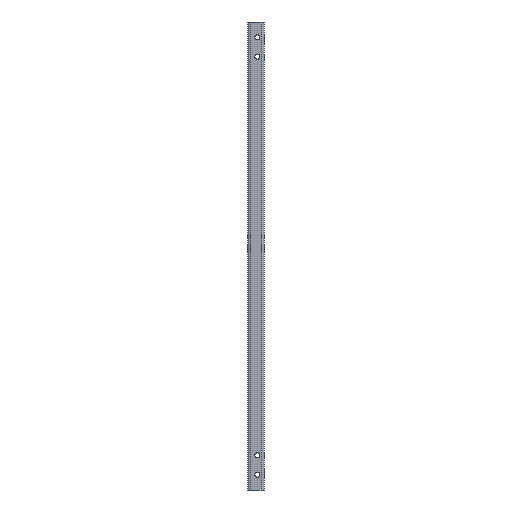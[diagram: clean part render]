
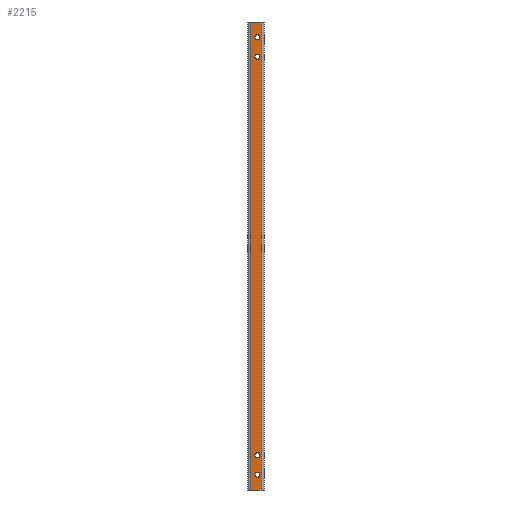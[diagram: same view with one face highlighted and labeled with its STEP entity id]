
A CAD part, front view. The second image highlights one B-rep face of the part: STEP entity #2215.
In plain terms, the highlighted planar face has unit normal (0, -1, 0).
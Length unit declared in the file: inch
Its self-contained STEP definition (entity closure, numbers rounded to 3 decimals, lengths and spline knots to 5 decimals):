
#98 = DIRECTION ( 'NONE',  ( 0., 0., -1. ) ) ;
#99 = DIRECTION ( 'NONE',  ( 0., 1., 0. ) ) ;
#104 = DIRECTION ( 'NONE',  ( 0., 0., -1. ) ) ;
#105 = DIRECTION ( 'NONE',  ( 0., 1., 0. ) ) ;
#106 = CARTESIAN_POINT ( 'NONE',  ( -0.412, -0.8125, -13.50475 ) ) ;
#109 = CARTESIAN_POINT ( 'NONE',  ( -0.412, -0.8125, -12.30275 ) ) ;
#428 = FACE_BOUND ( 'NONE', #1707, .T. ) ;
#430 = FACE_BOUND ( 'NONE', #1711, .T. ) ;
#432 = FACE_BOUND ( 'NONE', #1661, .T. ) ;
#438 = FACE_OUTER_BOUND ( 'NONE', #1658, .T. ) ;
#439 = FACE_BOUND ( 'NONE', #1588, .T. ) ;
#595 = VECTOR ( 'NONE', #2120, 39.37008 ) ;
#596 = LINE ( 'NONE', #2121, #595 ) ;
#597 = VECTOR ( 'NONE', #2122, 39.37008 ) ;
#598 = LINE ( 'NONE', #2125, #597 ) ;
#603 = CIRCLE ( 'NONE', #1319, 0.156 ) ;
#605 = CIRCLE ( 'NONE', #1322, 0.156 ) ;
#606 = VECTOR ( 'NONE', #2130, 39.37008 ) ;
#607 = LINE ( 'NONE', #2133, #606 ) ;
#608 = VECTOR ( 'NONE', #2144, 39.37008 ) ;
#610 = LINE ( 'NONE', #2043, #608 ) ;
#643 = CIRCLE ( 'NONE', #1301, 0.156 ) ;
#655 = CIRCLE ( 'NONE', #1305, 0.156 ) ;
#667 = CIRCLE ( 'NONE', #1292, 0.156 ) ;
#712 = CIRCLE ( 'NONE', #1293, 0.156 ) ;
#766 = CIRCLE ( 'NONE', #1276, 0.156 ) ;
#769 = CIRCLE ( 'NONE', #1275, 0.156 ) ;
#976 = CARTESIAN_POINT ( 'NONE',  ( -0.189, -0.8125, -14.45275 ) ) ;
#982 = CARTESIAN_POINT ( 'NONE',  ( -0.412, -0.8125, 13.66075 ) ) ;
#1036 = CARTESIAN_POINT ( 'NONE',  ( -0.412, -0.8125, -13.66075 ) ) ;
#1038 = CARTESIAN_POINT ( 'NONE',  ( -0.412, -0.8125, 13.34875 ) ) ;
#1073 = CARTESIAN_POINT ( 'NONE',  ( -0.859, -0.8125, -14.45275 ) ) ;
#1088 = CARTESIAN_POINT ( 'NONE',  ( -0.859, -0.8125, 14.45275 ) ) ;
#1090 = CARTESIAN_POINT ( 'NONE',  ( -0.412, -0.8125, -13.34875 ) ) ;
#1092 = CARTESIAN_POINT ( 'NONE',  ( -0.412, -0.8125, -12.14675 ) ) ;
#1106 = CARTESIAN_POINT ( 'NONE',  ( -0.412, -0.8125, -12.45875 ) ) ;
#1108 = CARTESIAN_POINT ( 'NONE',  ( -0.189, -0.8125, 14.45275 ) ) ;
#1115 = CARTESIAN_POINT ( 'NONE',  ( -0.412, -0.8125, 12.45875 ) ) ;
#1163 = EDGE_CURVE ( 'NONE', #1920, #1914, #769, .T. ) ;
#1165 = EDGE_CURVE ( 'NONE', #1923, #1931, #766, .T. ) ;
#1199 = EDGE_CURVE ( 'NONE', #1931, #1923, #712, .T. ) ;
#1225 = EDGE_CURVE ( 'NONE', #1941, #1960, #667, .T. ) ;
#1233 = EDGE_CURVE ( 'NONE', #1722, #1904, #655, .T. ) ;
#1241 = EDGE_CURVE ( 'NONE', #1914, #1920, #643, .T. ) ;
#1275 = AXIS2_PLACEMENT_3D ( 'NONE', #109, #105, #104 ) ;
#1276 = AXIS2_PLACEMENT_3D ( 'NONE', #106, #99, #98 ) ;
#1292 = AXIS2_PLACEMENT_3D ( 'NONE', #1842, #1840, #1838 ) ;
#1293 = AXIS2_PLACEMENT_3D ( 'NONE', #1873, #1867, #1866 ) ;
#1301 = AXIS2_PLACEMENT_3D ( 'NONE', #1789, #1787, #1786 ) ;
#1305 = AXIS2_PLACEMENT_3D ( 'NONE', #1835, #1813, #1812 ) ;
#1319 = AXIS2_PLACEMENT_3D ( 'NONE', #2147, #2136, #2135 ) ;
#1322 = AXIS2_PLACEMENT_3D ( 'NONE', #2143, #2139, #2138 ) ;
#1390 = AXIS2_PLACEMENT_3D ( 'NONE', #2306, #2310, #2311 ) ;
#1451 = EDGE_CURVE ( 'NONE', #1968, #1994, #610, .T. ) ;
#1452 = EDGE_CURVE ( 'NONE', #1960, #1941, #605, .T. ) ;
#1453 = EDGE_CURVE ( 'NONE', #1904, #1722, #603, .T. ) ;
#1454 = EDGE_CURVE ( 'NONE', #1983, #1994, #607, .T. ) ;
#1457 = EDGE_CURVE ( 'NONE', #1975, #1983, #598, .T. ) ;
#1458 = EDGE_CURVE ( 'NONE', #1975, #1968, #596, .T. ) ;
#1581 = ORIENTED_EDGE ( 'NONE', *, *, #1233, .T. ) ;
#1585 = ORIENTED_EDGE ( 'NONE', *, *, #1452, .T. ) ;
#1587 = ORIENTED_EDGE ( 'NONE', *, *, #1165, .T. ) ;
#1588 = EDGE_LOOP ( 'NONE', ( #1587, #1591 ) ) ;
#1589 = ORIENTED_EDGE ( 'NONE', *, *, #1225, .T. ) ;
#1591 = ORIENTED_EDGE ( 'NONE', *, *, #1199, .T. ) ;
#1594 = ORIENTED_EDGE ( 'NONE', *, *, #1454, .F. ) ;
#1596 = ORIENTED_EDGE ( 'NONE', *, *, #1163, .T. ) ;
#1598 = ORIENTED_EDGE ( 'NONE', *, *, #1457, .F. ) ;
#1600 = ORIENTED_EDGE ( 'NONE', *, *, #1241, .T. ) ;
#1602 = ORIENTED_EDGE ( 'NONE', *, *, #1458, .T. ) ;
#1607 = ORIENTED_EDGE ( 'NONE', *, *, #1453, .T. ) ;
#1609 = ORIENTED_EDGE ( 'NONE', *, *, #1451, .T. ) ;
#1658 = EDGE_LOOP ( 'NONE', ( #1594, #1598, #1602, #1609 ) ) ;
#1661 = EDGE_LOOP ( 'NONE', ( #1596, #1600 ) ) ;
#1707 = EDGE_LOOP ( 'NONE', ( #1585, #1589 ) ) ;
#1711 = EDGE_LOOP ( 'NONE', ( #1607, #1581 ) ) ;
#1722 = VERTEX_POINT ( 'NONE', #2075 ) ;
#1786 = DIRECTION ( 'NONE',  ( 0., 0., -1. ) ) ;
#1787 = DIRECTION ( 'NONE',  ( 0., 1., 0. ) ) ;
#1789 = CARTESIAN_POINT ( 'NONE',  ( -0.412, -0.8125, -12.30275 ) ) ;
#1812 = DIRECTION ( 'NONE',  ( 0., 0., 1. ) ) ;
#1813 = DIRECTION ( 'NONE',  ( 0., 1., 0. ) ) ;
#1835 = CARTESIAN_POINT ( 'NONE',  ( -0.412, -0.8125, 12.30275 ) ) ;
#1838 = DIRECTION ( 'NONE',  ( 0., 0., 1. ) ) ;
#1840 = DIRECTION ( 'NONE',  ( 0., 1., 0. ) ) ;
#1842 = CARTESIAN_POINT ( 'NONE',  ( -0.412, -0.8125, 13.50475 ) ) ;
#1866 = DIRECTION ( 'NONE',  ( 0., 0., -1. ) ) ;
#1867 = DIRECTION ( 'NONE',  ( 0., 1., 0. ) ) ;
#1873 = CARTESIAN_POINT ( 'NONE',  ( -0.412, -0.8125, -13.50475 ) ) ;
#1904 = VERTEX_POINT ( 'NONE', #1115 ) ;
#1914 = VERTEX_POINT ( 'NONE', #1106 ) ;
#1920 = VERTEX_POINT ( 'NONE', #1092 ) ;
#1923 = VERTEX_POINT ( 'NONE', #1090 ) ;
#1931 = VERTEX_POINT ( 'NONE', #1036 ) ;
#1941 = VERTEX_POINT ( 'NONE', #1038 ) ;
#1960 = VERTEX_POINT ( 'NONE', #982 ) ;
#1968 = VERTEX_POINT ( 'NONE', #976 ) ;
#1975 = VERTEX_POINT ( 'NONE', #1073 ) ;
#1983 = VERTEX_POINT ( 'NONE', #1088 ) ;
#1994 = VERTEX_POINT ( 'NONE', #1108 ) ;
#2043 = CARTESIAN_POINT ( 'NONE',  ( -0.189, -0.8125, -14.45275 ) ) ;
#2075 = CARTESIAN_POINT ( 'NONE',  ( -0.412, -0.8125, 12.14675 ) ) ;
#2120 = DIRECTION ( 'NONE',  ( 1., 0., 0. ) ) ;
#2121 = CARTESIAN_POINT ( 'NONE',  ( -0.859, -0.8125, -14.45275 ) ) ;
#2122 = DIRECTION ( 'NONE',  ( 0., 0., 1. ) ) ;
#2125 = CARTESIAN_POINT ( 'NONE',  ( -0.859, -0.8125, -14.45275 ) ) ;
#2130 = DIRECTION ( 'NONE',  ( 1., 0., 0. ) ) ;
#2133 = CARTESIAN_POINT ( 'NONE',  ( -0.859, -0.8125, 14.45275 ) ) ;
#2135 = DIRECTION ( 'NONE',  ( 0., 0., 1. ) ) ;
#2136 = DIRECTION ( 'NONE',  ( 0., 1., 0. ) ) ;
#2138 = DIRECTION ( 'NONE',  ( 0., 0., 1. ) ) ;
#2139 = DIRECTION ( 'NONE',  ( 0., 1., 0. ) ) ;
#2143 = CARTESIAN_POINT ( 'NONE',  ( -0.412, -0.8125, 13.50475 ) ) ;
#2144 = DIRECTION ( 'NONE',  ( 0., 0., 1. ) ) ;
#2147 = CARTESIAN_POINT ( 'NONE',  ( -0.412, -0.8125, 12.30275 ) ) ;
#2215 = ADVANCED_FACE ( 'NONE', ( #439, #432, #430, #428, #438 ), #2303, .T. ) ;
#2303 = PLANE ( 'NONE',  #1390 ) ;
#2306 = CARTESIAN_POINT ( 'NONE',  ( -0.859, -0.8125, -14.45275 ) ) ;
#2310 = DIRECTION ( 'NONE',  ( 0., -1., 0. ) ) ;
#2311 = DIRECTION ( 'NONE',  ( 0., 0., -1. ) ) ;
